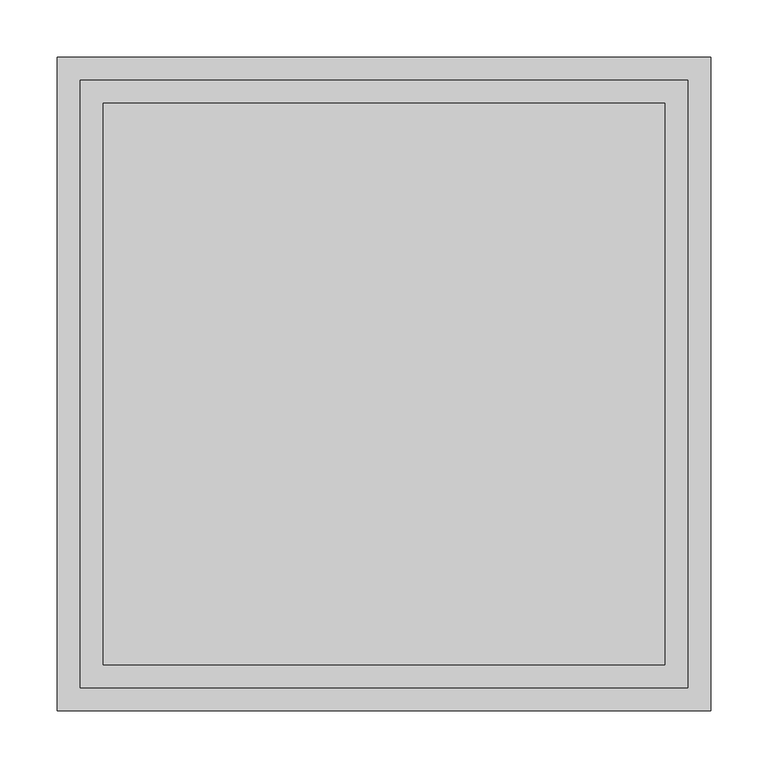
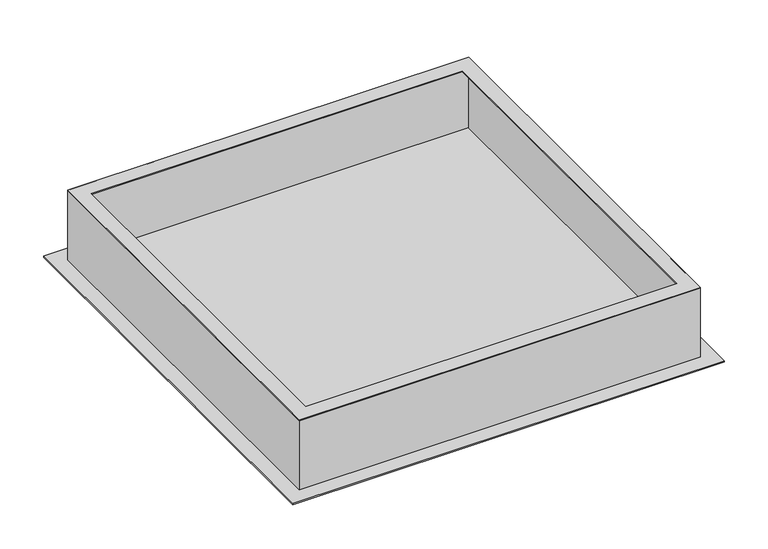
"""IFC4 building model written with IfcOpenShell, lengths in millimetres: proxy geometry, Опалубка для лючков металлическая : Опалубка для лючков металлическая."""

from ifc_helpers import new_model, si_unit, frame, origin, origin_with_axes, place, context, project, spatial, polyline, outline, extrude, source, transform, mapped, element, save


def electrical_fixtures_62c05acc(model_context):
    return source(origin(), model_context, "Body", "SweptSolid", [
        extrude(outline(polyline([(265.0, 265.0), (265.0, -265.0), (-265.0, -265.0), (-265.0, 265.0), (265.0, 265.0)]), holes=[polyline([(245.0, 245.0), (-245.0, 245.0), (-245.0, -245.0), (245.0, -245.0), (245.0, 245.0)])]), frame((0.0, 0.0, 98.5), z_axis=(0.0, 0.0, 1.0), x_axis=(1.0, 0.0, 0.0)), (0.0, 0.0, 1.0), 1.0),
        extrude(outline(polyline([(265.0, 265.0), (265.0, -265.0), (-265.0, -265.0), (-265.0, 265.0), (265.0, 265.0)]), holes=[polyline([(264.0, 264.0), (-264.0, 264.0), (-264.0, -264.0), (264.0, -264.0), (264.0, 264.0)])]), frame((0.0, 0.0, 2.0), z_axis=(0.0, 0.0, 1.0), x_axis=(1.0, 0.0, 0.0)), (0.0, 0.0, 1.0), 97.5),
        extrude(outline(polyline([(285.0, 285.0), (285.0, -285.0), (-285.0, -285.0), (-285.0, 285.0), (285.0, 285.0)])), origin_with_axes(), (0.0, 0.0, 1.0), 2.0),
    ])


if __name__ == "__main__":
    model = new_model("IFC4")
    model_context = context("Model", 3, world=origin())
    ifc_project = project(units=[si_unit("LENGTHUNIT", "METRE", prefix="MILLI")], contexts=[model_context])
    site = spatial("IfcSite", under=ifc_project)
    building = spatial("IfcBuilding", under=site)
    placement = place(None, origin())
    electrical_fixtures_shape = electrical_fixtures_62c05acc(model_context)
    element("IfcBuildingElementProxy", 1, Name="Опалубка для лючков металлическая : Опалубка для лючков металлическая", ObjectType="Опалубка для лючков металлическая : Опалубка для лючков металлическая", at=placement, inside=building, context=model_context, shape_type="MappedRepresentation", body=[
        mapped(electrical_fixtures_shape, transform((0.0, 0.0, 0.0), x_axis=(1.0, 0.0, 0.0), y_axis=(0.0, 1.0, 0.0), z_axis=(0.0, 0.0, 1.0))),
    ])
    save(model, "model.ifc")
